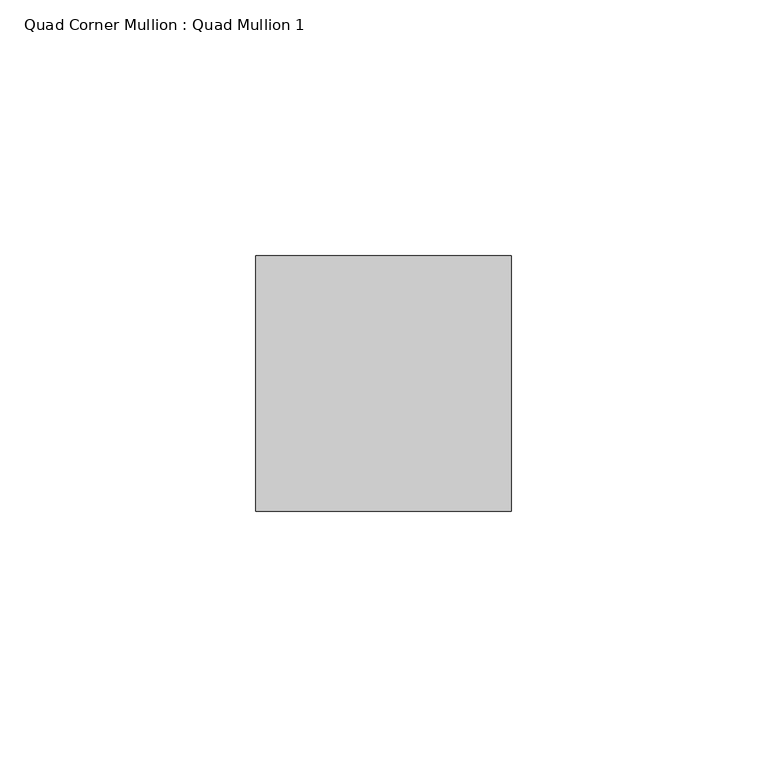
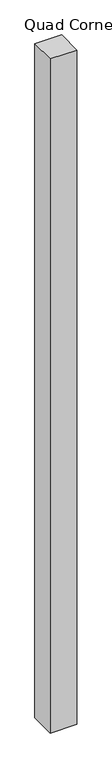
"""IFC4 building model written with IfcOpenShell, lengths in millimetres: member geometry, Quad Corner Mullion : Quad Mullion 1."""

from ifc_helpers import new_model, si_unit, frame, origin, place, context, project, spatial, polyline, outline, extrude, source, transform, mapped, element, save


def quad_corner_mullion_quad_mullion_1_9d4e48b4(model_context):
    return source(origin(), model_context, "Body", "SweptSolid", [
        extrude(outline(polyline([(25.0, 25.0), (25.0, -25.0), (-25.0, -25.0), (-25.0, 25.0), (25.0, 25.0)])), frame((0.0, 0.0, -1340.0), z_axis=(0.0, 0.0, 1.0), x_axis=(1.0, 0.0, 0.0)), (0.0, 0.0, 1.0), 1340.0),
    ])


if __name__ == "__main__":
    model = new_model("IFC4")
    model_context = context("Model", 3, world=origin())
    ifc_project = project(units=[si_unit("LENGTHUNIT", "METRE", prefix="MILLI")], contexts=[model_context])
    site = spatial("IfcSite", under=ifc_project)
    building = spatial("IfcBuilding", under=site)
    placement = place(None, origin())
    quad_corner_mullion_quad_mullion_1_shape = quad_corner_mullion_quad_mullion_1_9d4e48b4(model_context)
    element("IfcMember", 1, ObjectType="Quad Corner Mullion : Quad Mullion 1", at=placement, inside=building, context=model_context, shape_type="MappedRepresentation", body=[
        mapped(quad_corner_mullion_quad_mullion_1_shape, transform((0.0, 0.0, 0.0), x_axis=(1.0, 0.0, 0.0), y_axis=(0.0, 1.0, 0.0), z_axis=(0.0, 0.0, 1.0))),
    ])
    save(model, "model.ifc")
